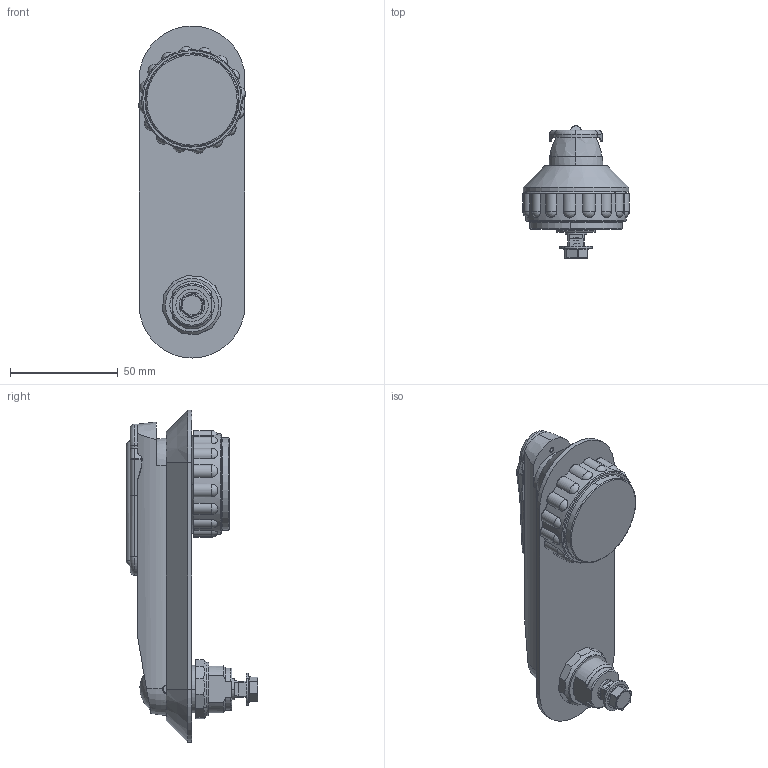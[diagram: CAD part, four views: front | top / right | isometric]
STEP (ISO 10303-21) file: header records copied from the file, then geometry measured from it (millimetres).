
FILE_DESCRIPTION (( 'STEP AP214' ), '1' );
FILE_NAME ('RS420.STEP', '2010-02-25T17:15:36', ( '£ukaszC' ), ( '' ), 'SwSTEP 2.0', 'SolidWorks 2008', '' );
FILE_SCHEMA (( 'AUTOMOTIVE_DESIGN' ));
Length unit declared in the file: millimetre
Products named in the file (14): O-RING 45 x 2_Domyœlna; M6 x 10_Domyœlna; 1B.RS400.02.01.00; RS420; 1B.RS100.01.04.00_Domyœlna; 1B.RS400.01.03.00; 1B RS 400.01.02.00_Domyœlna; 1B.RS420.01.01.00; O-RING 12x2_Domyœlna; Zapinka RESS_Domyœlna; 1B.RS 100.01.06.00_Domyœlna; 6,5 x 1; 1B.RS400.02.03.01; 1B. RS100.02.02.00_Domyœlna
Assembly tree (13 placements, depth 2):
  RS420
    6,5 x 1
    1B. RS100.02.02.00_Domyœlna
    1B.RS400.01.03.00
    1B.RS100.01.04.00_Domyœlna
    1B.RS 100.01.06.00_Domyœlna
    1B.RS420.01.01.00
    1B.RS400.02.01.00
    1B.RS400.02.03.01
    1B RS 400.01.02.00_Domyœlna
    O-RING 12x2_Domyœlna
    O-RING 45 x 2_Domyœlna
    M6 x 10_Domyœlna
    Zapinka RESS_Domyœlna
Bounding box: 49.56 x 61.19 x 154 mm (x, y, z)
Volume: 115708.3 mm3; surface area: 70864.4 mm2
Topology: 14 solids, 14 shells, 559 faces, 1451 edges, 921 vertices
Faces by surface type: cylinder 200, plane 198, torus 84, sphere 38, cone 25, bspline 14
Entity records: 21531 total; most frequent: CARTESIAN_POINT 7307, DIRECTION 2888, ORIENTED_EDGE 2870, EDGE_CURVE 1435, AXIS2_PLACEMENT_3D 1133, VERTEX_POINT 917, VECTOR 622, LINE 622
